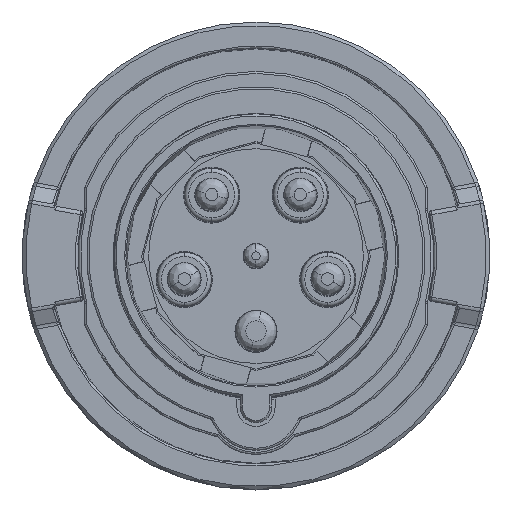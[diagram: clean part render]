
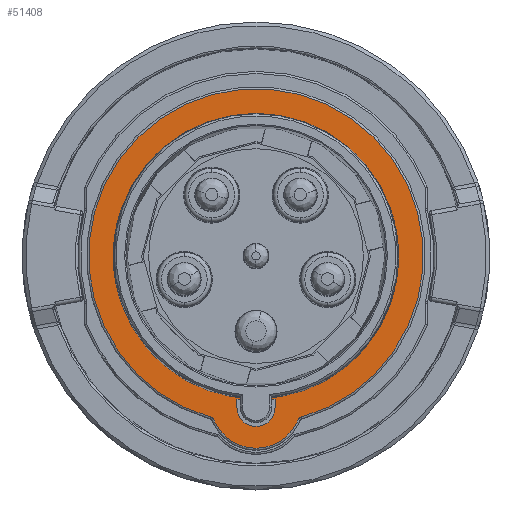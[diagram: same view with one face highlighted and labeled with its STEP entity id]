
A CAD part, top view. The second image highlights one B-rep face of the part: STEP entity #51408.
In plain terms, the highlighted planar face has unit normal (0, 0, 1).
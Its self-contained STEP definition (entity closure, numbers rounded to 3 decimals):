
#1686=CARTESIAN_POINT('',(-11.133,-39.979,4.3));
#1687=DIRECTION('',(0.,0.,-1.));
#1688=DIRECTION('',(0.268,0.963,0.));
#1689=AXIS2_PLACEMENT_3D('',#1686,#1687,#1688);
#1694=CARTESIAN_POINT('',(0.,0.,4.3));
#1695=DIRECTION('',(0.,0.,1.));
#1696=DIRECTION('',(0.268,-0.963,0.));
#1697=AXIS2_PLACEMENT_3D('',#1694,#1695,#1696);
#1702=CARTESIAN_POINT('',(11.133,-39.979,4.3));
#1703=DIRECTION('',(0.,0.,-1.));
#1704=DIRECTION('',(-0.928,0.373,0.));
#1705=AXIS2_PLACEMENT_3D('',#1702,#1703,#1704);
#1710=CARTESIAN_POINT('',(0.,-35.5,4.3));
#1711=DIRECTION('',(0.,0.,1.));
#1712=DIRECTION('',(-0.928,-0.373,0.));
#1713=AXIS2_PLACEMENT_3D('',#1710,#1711,#1712);
#1718=CARTESIAN_POINT('',(0.,0.,4.3));
#1719=DIRECTION('',(0.,0.,-1.));
#1720=DIRECTION('',(-1.,0.,0.));
#1721=AXIS2_PLACEMENT_3D('',#1718,#1719,#1720);
#1726=CARTESIAN_POINT('',(0.,0.,4.3));
#1727=DIRECTION('',(0.,0.,-1.));
#1728=DIRECTION('',(1.,0.,0.));
#1729=AXIS2_PLACEMENT_3D('',#1726,#1727,#1728);
#1734=DIRECTION('',(0.,1.,0.));
#1735=VECTOR('',#1734,2.004);
#1736=CARTESIAN_POINT('',(-4.6,-36.65,4.3));
#1737=LINE('3920',#1736,#1735);
#1741=CARTESIAN_POINT('',(0.,-36.65,4.3));
#1742=DIRECTION('',(0.,0.,-1.));
#1743=DIRECTION('',(1.,0.,0.));
#1744=AXIS2_PLACEMENT_3D('',#1741,#1742,#1743);
#1749=DIRECTION('',(0.,-1.,0.));
#1750=VECTOR('',#1749,2.004);
#1751=CARTESIAN_POINT('',(4.6,-34.646,4.3));
#1752=LINE('3921',#1751,#1750);
#30362=CARTESIAN_POINT('',(0.,0.,4.3));
#30363=DIRECTION('',(0.,0.,-1.));
#30364=DIRECTION('',(0.132,-0.991,0.));
#30365=AXIS2_PLACEMENT_3D('',#30362,#30363,#30364);
#44712=CARTESIAN_POINT('',(-34.55,0.,4.3));
#44713=CARTESIAN_POINT('',(34.55,0.,4.3));
#44714=VERTEX_POINT('',#44712);
#44715=VERTEX_POINT('',#44713);
#46340=CARTESIAN_POINT('',(-10.865,-39.016,4.3));
#46341=CARTESIAN_POINT('',(-10.205,-39.606,4.3));
#46342=VERTEX_POINT('',#46340);
#46343=VERTEX_POINT('',#46341);
#46348=CARTESIAN_POINT('',(10.205,-39.606,4.3));
#46349=VERTEX_POINT('',#46348);
#46352=CARTESIAN_POINT('',(10.865,-39.016,4.3));
#46353=VERTEX_POINT('',#46352);
#46356=CARTESIAN_POINT('',(4.6,-36.65,4.3));
#46357=CARTESIAN_POINT('',(-4.6,-36.65,4.3));
#46358=VERTEX_POINT('',#46356);
#46359=VERTEX_POINT('',#46357);
#46376=CARTESIAN_POINT('',(-4.6,-34.646,4.3));
#46377=VERTEX_POINT('',#46376);
#46378=CARTESIAN_POINT('',(4.6,-34.646,4.3));
#46379=VERTEX_POINT('',#46378);
#51379=CARTESIAN_POINT('',(0.,0.,4.3));
#51380=DIRECTION('',(0.,0.,-1.));
#51381=DIRECTION('',(1.,0.,0.));
#51382=AXIS2_PLACEMENT_3D('',#51379,#51380,#51381);
#51383=PLANE('946',#51382);
#51385=ORIENTED_EDGE('3892',*,*,#51384,.F.);
#51387=ORIENTED_EDGE('3898',*,*,#51386,.F.);
#51389=ORIENTED_EDGE('3896',*,*,#51388,.F.);
#51391=ORIENTED_EDGE('3894',*,*,#51390,.F.);
#51392=EDGE_LOOP('946',(#51385,#51387,#51389,#51391));
#51393=FACE_OUTER_BOUND('946',#51392,.F.);
#51394=ORIENTED_EDGE('2398',*,*,#49343,.F.);
#51395=ORIENTED_EDGE('2399',*,*,#49410,.F.);
#51396=EDGE_LOOP('946',(#51394,#51395));
#51397=FACE_BOUND('946',#51396,.F.);
#51399=ORIENTED_EDGE('3914',*,*,#51398,.T.);
#51401=ORIENTED_EDGE('3920',*,*,#51400,.F.);
#51403=ORIENTED_EDGE('3904',*,*,#51402,.F.);
#51405=ORIENTED_EDGE('3921',*,*,#51404,.F.);
#51406=EDGE_LOOP('946',(#51399,#51401,#51403,#51405));
#51407=FACE_BOUND('946',#51406,.F.);
#1690=CIRCLE('3892',#1689,1.);
#1698=CIRCLE('3898',#1697,40.5);
#1706=CIRCLE('3896',#1705,1.);
#1714=CIRCLE('3894',#1713,11.);
#1722=CIRCLE('2398',#1721,34.55);
#1730=CIRCLE('2399',#1729,34.55);
#1745=CIRCLE('3904',#1744,4.6);
#30366=CIRCLE('3914',#30365,34.95);
#49343=EDGE_CURVE('2398',#44714,#44715,#1722,.T.);
#49410=EDGE_CURVE('2399',#44715,#44714,#1730,.T.);
#51384=EDGE_CURVE('3892',#46342,#46343,#1690,.T.);
#51386=EDGE_CURVE('3898',#46353,#46342,#1698,.T.);
#51388=EDGE_CURVE('3896',#46349,#46353,#1706,.T.);
#51390=EDGE_CURVE('3894',#46343,#46349,#1714,.T.);
#51398=EDGE_CURVE('3914',#46379,#46377,#30366,.T.);
#51400=EDGE_CURVE('3920',#46359,#46377,#1737,.T.);
#51402=EDGE_CURVE('3904',#46358,#46359,#1745,.T.);
#51404=EDGE_CURVE('3921',#46379,#46358,#1752,.T.);
#51408=ADVANCED_FACE('946',(#51393,#51397,#51407),#51383,.F.);
